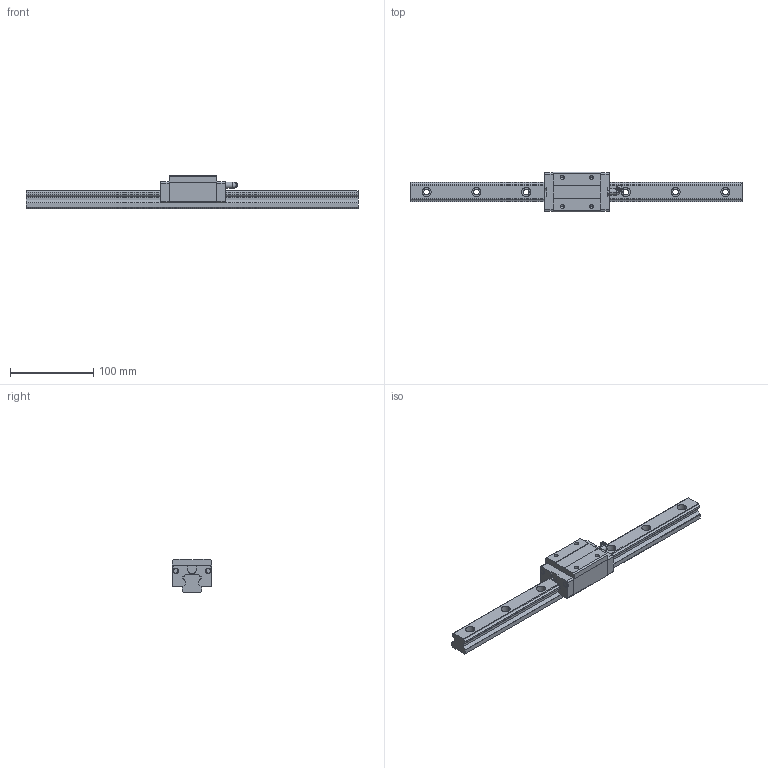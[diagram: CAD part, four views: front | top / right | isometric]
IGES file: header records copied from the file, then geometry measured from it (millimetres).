
Global section: file name: No Iges File Name specified; native system: AutoDesk Inventor R10; preprocessor: AutoDesk Inventor Iges Exporter R10; author: No Author specified; organization: No Organization specified; date: 20101222.163341; units: millimetre
Bounding box: 400 x 48 x 40 mm (x, y, z)
Surface area: 59547.6 mm2 (no closed solid volume)
Topology: 0 solids, 0 shells, 195 faces, 1289 edges, 1269 vertices
Faces by surface type: bspline 195
